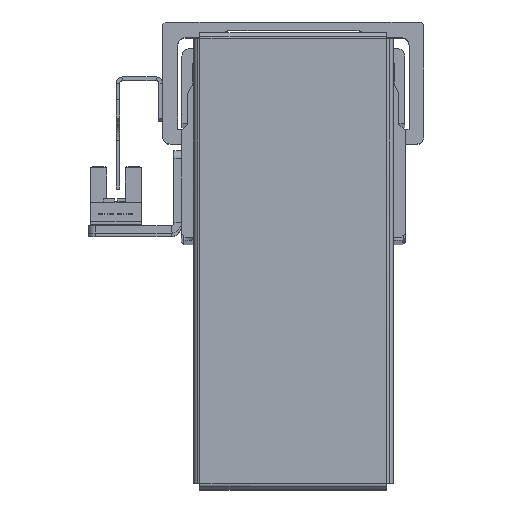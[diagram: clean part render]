
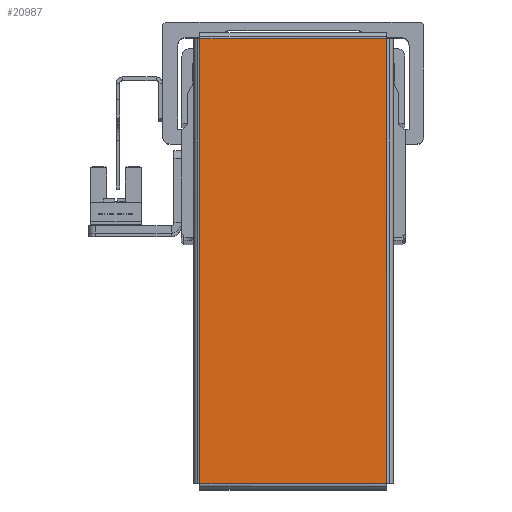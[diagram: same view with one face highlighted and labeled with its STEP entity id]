
A CAD part, top view. The second image highlights one B-rep face of the part: STEP entity #20987.
In plain terms, the highlighted planar face has unit normal (0, 0, 1) as drawn and (0, 0, -1) by its records, which use the part's own axes.
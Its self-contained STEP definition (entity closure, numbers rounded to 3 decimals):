
#482 = VERTEX_POINT ( 'NONE', #23474 ) ;
#495 = VERTEX_POINT ( 'NONE', #23457 ) ;
#507 = VERTEX_POINT ( 'NONE', #23475 ) ;
#522 = VERTEX_POINT ( 'NONE', #23444 ) ;
#6786 = EDGE_LOOP ( 'NONE', ( #20380, #20369, #20365, #20339 ) ) ;
#9033 = DIRECTION ( 'NONE',  ( 0., 0., 1. ) ) ;
#9045 = PLANE ( 'NONE',  #22589 ) ;
#9063 = CARTESIAN_POINT ( 'NONE',  ( 0., 0., -1. ) ) ;
#9075 = DIRECTION ( 'NONE',  ( 1., 0., 0. ) ) ;
#19024 = EDGE_CURVE ( 'NONE', #507, #482, #28206, .T. ) ;
#19090 = EDGE_CURVE ( 'NONE', #495, #522, #28381, .T. ) ;
#19096 = EDGE_CURVE ( 'NONE', #522, #507, #28427, .T. ) ;
#19146 = EDGE_CURVE ( 'NONE', #482, #495, #28575, .T. ) ;
#20339 = ORIENTED_EDGE ( 'NONE', *, *, #19090, .T. ) ;
#20365 = ORIENTED_EDGE ( 'NONE', *, *, #19146, .T. ) ;
#20369 = ORIENTED_EDGE ( 'NONE', *, *, #19024, .T. ) ;
#20380 = ORIENTED_EDGE ( 'NONE', *, *, #19096, .T. ) ;
#20987 = ADVANCED_FACE ( 'NONE', ( #25079 ), #9045, .F. ) ;
#22589 = AXIS2_PLACEMENT_3D ( 'NONE', #9063, #9033, #9075 ) ;
#23444 = CARTESIAN_POINT ( 'NONE',  ( 59.513, 25.013, -1. ) ) ;
#23457 = CARTESIAN_POINT ( 'NONE',  ( -59.513, 25.013, -1. ) ) ;
#23474 = CARTESIAN_POINT ( 'NONE',  ( -59.513, -25.013, -1. ) ) ;
#23475 = CARTESIAN_POINT ( 'NONE',  ( 59.513, -25.013, -1. ) ) ;
#25079 = FACE_OUTER_BOUND ( 'NONE', #6786, .T. ) ;
#28206 = LINE ( 'NONE', #28330, #28232 ) ;
#28232 = VECTOR ( 'NONE', #28261, 1000. ) ;
#28261 = DIRECTION ( 'NONE',  ( -1., 0., 0. ) ) ;
#28330 = CARTESIAN_POINT ( 'NONE',  ( 59.543, -25.013, -1. ) ) ;
#28381 = LINE ( 'NONE', #28560, #28449 ) ;
#28427 = LINE ( 'NONE', #28649, #28451 ) ;
#28449 = VECTOR ( 'NONE', #28562, 1000. ) ;
#28451 = VECTOR ( 'NONE', #28731, 1000. ) ;
#28498 = VECTOR ( 'NONE', #29067, 1000. ) ;
#28560 = CARTESIAN_POINT ( 'NONE',  ( -59.543, 25.013, -1. ) ) ;
#28562 = DIRECTION ( 'NONE',  ( 1., 0., 0. ) ) ;
#28575 = LINE ( 'NONE', #29103, #28498 ) ;
#28649 = CARTESIAN_POINT ( 'NONE',  ( 59.513, 25.043, -1. ) ) ;
#28731 = DIRECTION ( 'NONE',  ( 0., -1., 0. ) ) ;
#29067 = DIRECTION ( 'NONE',  ( 0., 1., 0. ) ) ;
#29103 = CARTESIAN_POINT ( 'NONE',  ( -59.513, -25.043, -1. ) ) ;
